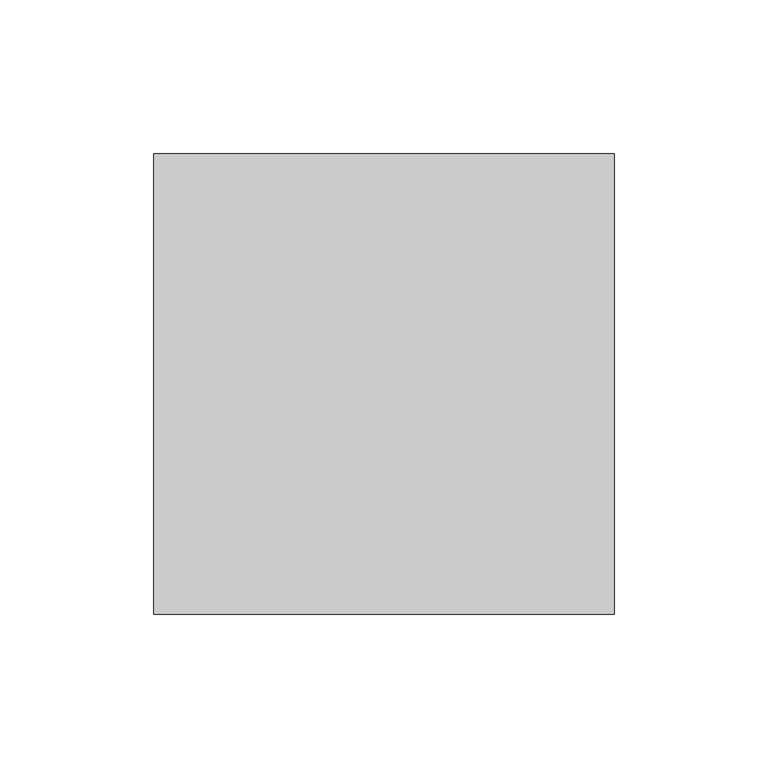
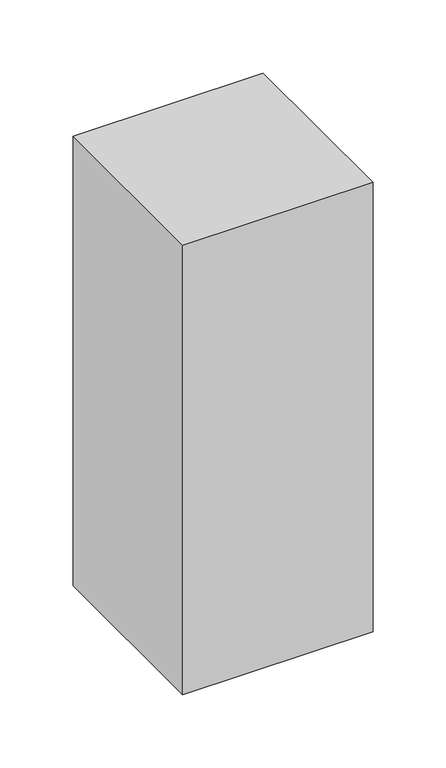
"""IFC4 building model written with IfcOpenShell, lengths in millimetres: member geometry, Угловой L-импост : Угловой L-импост."""

from ifc_helpers import new_model, si_unit, frame, origin, place, context, project, spatial, polyline, outline, extrude, source, transform, mapped, element, save


def member_820a8d10(model_context):
    return source(origin(), model_context, "Body", "SweptSolid", [
        extrude(outline(polyline([(-75.0, -75.0), (-75.0, 75.0), (75.0, 75.0), (75.0, -75.0), (-75.0, -75.0)])), frame((0.0, 0.0, -375.0), z_axis=(0.0, 0.0, 1.0), x_axis=(1.0, 0.0, 0.0)), (0.0, 0.0, 1.0), 375.0),
    ])


if __name__ == "__main__":
    model = new_model("IFC4")
    model_context = context("Model", 3, world=origin())
    ifc_project = project(units=[si_unit("LENGTHUNIT", "METRE", prefix="MILLI")], contexts=[model_context])
    site = spatial("IfcSite", under=ifc_project)
    building = spatial("IfcBuilding", under=site)
    placement = place(None, origin())
    member_shape = member_820a8d10(model_context)
    element("IfcMember", 1, ObjectType="Угловой L-импост : Угловой L-импост", at=placement, inside=building, context=model_context, shape_type="MappedRepresentation", body=[
        mapped(member_shape, transform((0.0, 0.0, 0.0), x_axis=(1.0, 0.0, 0.0), y_axis=(0.0, 1.0, 0.0), z_axis=(0.0, 0.0, 1.0))),
    ])
    save(model, "model.ifc")
